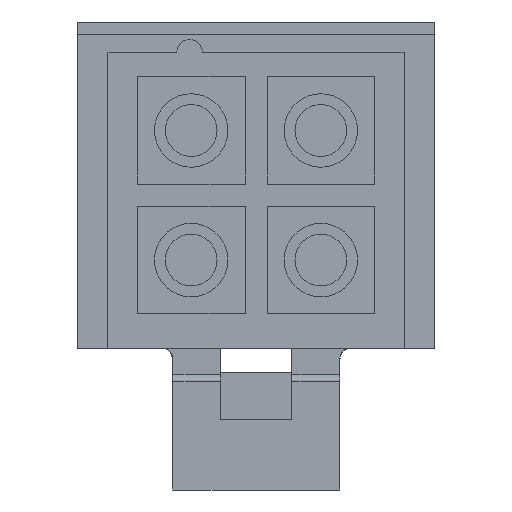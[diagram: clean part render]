
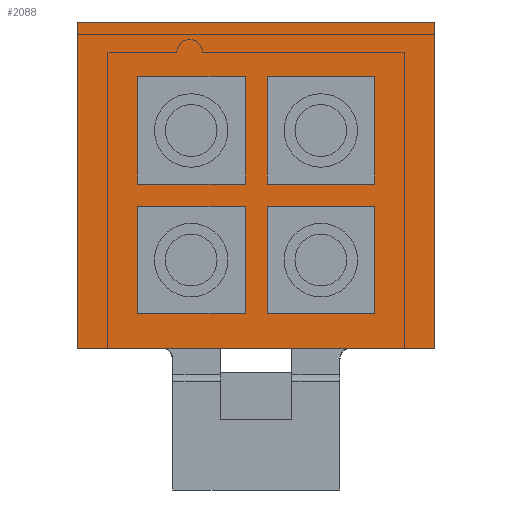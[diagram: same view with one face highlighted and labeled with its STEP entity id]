
A CAD part, front view. The second image highlights one B-rep face of the part: STEP entity #2088.
In plain terms, the highlighted planar face has unit normal (0, -1, 0).
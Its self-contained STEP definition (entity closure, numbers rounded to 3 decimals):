
#111=DIRECTION('',(0.,0.,1.));
#112=VECTOR('',#111,7.55);
#113=CARTESIAN_POINT('',(4.13,-4.,-3.42));
#114=LINE('',#113,#112);
#128=DIRECTION('',(-1.,0.,0.));
#129=VECTOR('',#128,8.27);
#130=CARTESIAN_POINT('',(4.13,-4.,-3.42));
#131=LINE('',#130,#129);
#145=DIRECTION('',(0.,0.,-1.));
#146=VECTOR('',#145,7.55);
#147=CARTESIAN_POINT('',(-4.14,-4.,4.13));
#148=LINE('',#147,#146);
#161=DIRECTION('',(-1.,0.,0.));
#162=VECTOR('',#161,8.27);
#163=CARTESIAN_POINT('',(4.13,-4.,4.13));
#164=LINE('',#163,#162);
#165=DIRECTION('',(0.,0.,-1.));
#166=VECTOR('',#165,2.49);
#167=CARTESIAN_POINT('',(-0.255,-4.,-0.13));
#168=LINE('',#167,#166);
#173=DIRECTION('',(-1.,0.,0.));
#174=VECTOR('',#173,2.49);
#175=CARTESIAN_POINT('',(-0.255,-4.,-2.62));
#176=LINE('',#175,#174);
#181=DIRECTION('',(0.,0.,1.));
#182=VECTOR('',#181,2.49);
#183=CARTESIAN_POINT('',(-2.745,-4.,-2.62));
#184=LINE('',#183,#182);
#189=DIRECTION('',(1.,0.,0.));
#190=VECTOR('',#189,2.49);
#191=CARTESIAN_POINT('',(-2.745,-4.,-0.13));
#192=LINE('',#191,#190);
#269=DIRECTION('',(0.,0.,-1.));
#270=VECTOR('',#269,2.49);
#271=CARTESIAN_POINT('',(-0.255,-4.,2.87));
#272=LINE('',#271,#270);
#277=DIRECTION('',(-1.,0.,0.));
#278=VECTOR('',#277,2.49);
#279=CARTESIAN_POINT('',(-0.255,-4.,0.38));
#280=LINE('',#279,#278);
#285=DIRECTION('',(0.,0.,1.));
#286=VECTOR('',#285,2.49);
#287=CARTESIAN_POINT('',(-2.745,-4.,0.38));
#288=LINE('',#287,#286);
#293=DIRECTION('',(1.,0.,0.));
#294=VECTOR('',#293,2.49);
#295=CARTESIAN_POINT('',(-2.745,-4.,2.87));
#296=LINE('',#295,#294);
#373=DIRECTION('',(0.,0.,-1.));
#374=VECTOR('',#373,2.49);
#375=CARTESIAN_POINT('',(2.745,-4.,-0.13));
#376=LINE('',#375,#374);
#381=DIRECTION('',(-1.,0.,0.));
#382=VECTOR('',#381,2.49);
#383=CARTESIAN_POINT('',(2.745,-4.,-2.62));
#384=LINE('',#383,#382);
#389=DIRECTION('',(0.,0.,1.));
#390=VECTOR('',#389,2.49);
#391=CARTESIAN_POINT('',(0.255,-4.,-2.62));
#392=LINE('',#391,#390);
#397=DIRECTION('',(1.,0.,0.));
#398=VECTOR('',#397,2.49);
#399=CARTESIAN_POINT('',(0.255,-4.,-0.13));
#400=LINE('',#399,#398);
#477=DIRECTION('',(0.,0.,-1.));
#478=VECTOR('',#477,2.49);
#479=CARTESIAN_POINT('',(2.745,-4.,2.87));
#480=LINE('',#479,#478);
#485=DIRECTION('',(-1.,0.,0.));
#486=VECTOR('',#485,2.49);
#487=CARTESIAN_POINT('',(2.745,-4.,0.38));
#488=LINE('',#487,#486);
#493=DIRECTION('',(0.,0.,1.));
#494=VECTOR('',#493,2.49);
#495=CARTESIAN_POINT('',(0.255,-4.,0.38));
#496=LINE('',#495,#494);
#501=DIRECTION('',(1.,0.,0.));
#502=VECTOR('',#501,2.49);
#503=CARTESIAN_POINT('',(0.255,-4.,2.87));
#504=LINE('',#503,#502);
#1679=CARTESIAN_POINT('',(-4.14,-4.,-3.42));
#1680=VERTEX_POINT('',#1679);
#1681=CARTESIAN_POINT('',(4.13,-4.,-3.42));
#1682=VERTEX_POINT('',#1681);
#1700=CARTESIAN_POINT('',(-4.14,-4.,4.13));
#1701=VERTEX_POINT('',#1700);
#1704=CARTESIAN_POINT('',(4.13,-4.,4.13));
#1705=VERTEX_POINT('',#1704);
#1706=CARTESIAN_POINT('',(-0.255,-4.,-0.13));
#1707=CARTESIAN_POINT('',(-0.255,-4.,-2.62));
#1708=VERTEX_POINT('',#1706);
#1709=VERTEX_POINT('',#1707);
#1710=CARTESIAN_POINT('',(-2.745,-4.,-0.13));
#1711=VERTEX_POINT('',#1710);
#1712=CARTESIAN_POINT('',(-2.745,-4.,-2.62));
#1713=VERTEX_POINT('',#1712);
#1714=CARTESIAN_POINT('',(-0.255,-4.,2.87));
#1715=CARTESIAN_POINT('',(-0.255,-4.,0.38));
#1716=VERTEX_POINT('',#1714);
#1717=VERTEX_POINT('',#1715);
#1718=CARTESIAN_POINT('',(-2.745,-4.,2.87));
#1719=VERTEX_POINT('',#1718);
#1720=CARTESIAN_POINT('',(-2.745,-4.,0.38));
#1721=VERTEX_POINT('',#1720);
#1722=CARTESIAN_POINT('',(2.745,-4.,-0.13));
#1723=CARTESIAN_POINT('',(2.745,-4.,-2.62));
#1724=VERTEX_POINT('',#1722);
#1725=VERTEX_POINT('',#1723);
#1726=CARTESIAN_POINT('',(0.255,-4.,-0.13));
#1727=VERTEX_POINT('',#1726);
#1728=CARTESIAN_POINT('',(0.255,-4.,-2.62));
#1729=VERTEX_POINT('',#1728);
#1730=CARTESIAN_POINT('',(2.745,-4.,2.87));
#1731=CARTESIAN_POINT('',(2.745,-4.,0.38));
#1732=VERTEX_POINT('',#1730);
#1733=VERTEX_POINT('',#1731);
#1734=CARTESIAN_POINT('',(0.255,-4.,2.87));
#1735=VERTEX_POINT('',#1734);
#1736=CARTESIAN_POINT('',(0.255,-4.,0.38));
#1737=VERTEX_POINT('',#1736);
#2035=CARTESIAN_POINT('',(3.42,-4.,4.13));
#2036=DIRECTION('',(0.,-1.,0.));
#2037=DIRECTION('',(0.,0.,-1.));
#2038=AXIS2_PLACEMENT_3D('',#2035,#2036,#2037);
#2039=PLANE('',#2038);
#2040=ORIENTED_EDGE('',*,*,#1941,.T.);
#2042=ORIENTED_EDGE('',*,*,#2041,.F.);
#2044=ORIENTED_EDGE('',*,*,#2043,.F.);
#2045=ORIENTED_EDGE('',*,*,#2025,.F.);
#2046=EDGE_LOOP('',(#2040,#2042,#2044,#2045));
#2047=FACE_OUTER_BOUND('',#2046,.F.);
#2049=ORIENTED_EDGE('',*,*,#2048,.F.);
#2051=ORIENTED_EDGE('',*,*,#2050,.F.);
#2053=ORIENTED_EDGE('',*,*,#2052,.F.);
#2055=ORIENTED_EDGE('',*,*,#2054,.F.);
#2056=EDGE_LOOP('',(#2049,#2051,#2053,#2055));
#2057=FACE_BOUND('',#2056,.F.);
#2059=ORIENTED_EDGE('',*,*,#2058,.F.);
#2061=ORIENTED_EDGE('',*,*,#2060,.F.);
#2063=ORIENTED_EDGE('',*,*,#2062,.F.);
#2065=ORIENTED_EDGE('',*,*,#2064,.F.);
#2066=EDGE_LOOP('',(#2059,#2061,#2063,#2065));
#2067=FACE_BOUND('',#2066,.F.);
#2069=ORIENTED_EDGE('',*,*,#2068,.F.);
#2071=ORIENTED_EDGE('',*,*,#2070,.F.);
#2073=ORIENTED_EDGE('',*,*,#2072,.F.);
#2075=ORIENTED_EDGE('',*,*,#2074,.F.);
#2076=EDGE_LOOP('',(#2069,#2071,#2073,#2075));
#2077=FACE_BOUND('',#2076,.F.);
#2079=ORIENTED_EDGE('',*,*,#2078,.F.);
#2081=ORIENTED_EDGE('',*,*,#2080,.F.);
#2083=ORIENTED_EDGE('',*,*,#2082,.F.);
#2085=ORIENTED_EDGE('',*,*,#2084,.F.);
#2086=EDGE_LOOP('',(#2079,#2081,#2083,#2085));
#2087=FACE_BOUND('',#2086,.F.);
#2088=ADVANCED_FACE('',(#2047,#2057,#2067,#2077,#2087),#2039,.T.);
#1941=EDGE_CURVE('',#1682,#1680,#131,.T.);
#2025=EDGE_CURVE('',#1682,#1705,#114,.T.);
#2041=EDGE_CURVE('',#1701,#1680,#148,.T.);
#2043=EDGE_CURVE('',#1705,#1701,#164,.T.);
#2048=EDGE_CURVE('',#1708,#1709,#168,.T.);
#2050=EDGE_CURVE('',#1711,#1708,#192,.T.);
#2052=EDGE_CURVE('',#1713,#1711,#184,.T.);
#2054=EDGE_CURVE('',#1709,#1713,#176,.T.);
#2058=EDGE_CURVE('',#1716,#1717,#272,.T.);
#2060=EDGE_CURVE('',#1719,#1716,#296,.T.);
#2062=EDGE_CURVE('',#1721,#1719,#288,.T.);
#2064=EDGE_CURVE('',#1717,#1721,#280,.T.);
#2068=EDGE_CURVE('',#1724,#1725,#376,.T.);
#2070=EDGE_CURVE('',#1727,#1724,#400,.T.);
#2072=EDGE_CURVE('',#1729,#1727,#392,.T.);
#2074=EDGE_CURVE('',#1725,#1729,#384,.T.);
#2078=EDGE_CURVE('',#1732,#1733,#480,.T.);
#2080=EDGE_CURVE('',#1735,#1732,#504,.T.);
#2082=EDGE_CURVE('',#1737,#1735,#496,.T.);
#2084=EDGE_CURVE('',#1733,#1737,#488,.T.);
